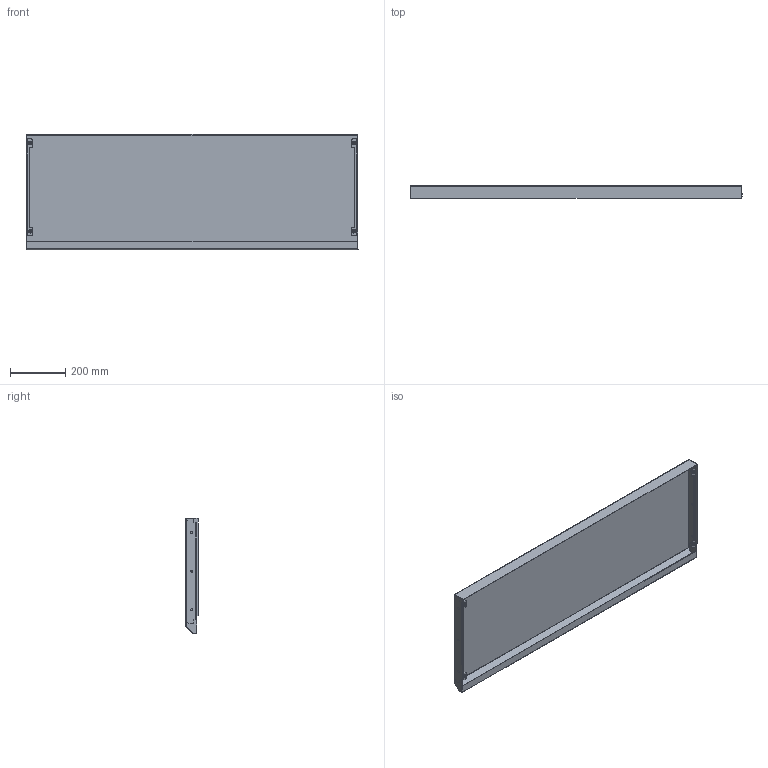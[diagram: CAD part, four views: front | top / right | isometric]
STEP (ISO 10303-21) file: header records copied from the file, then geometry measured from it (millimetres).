
FILE_DESCRIPTION (( 'STEP AP214' ), '1' );
FILE_NAME ('RKC 120.40 ﾊ鰀靍裲 鈞隆.STEP', '2023-07-29T07:53:27', ( '' ), ( '' ), 'SwSTEP 2.0', 'SolidWorks 2019', '' );
FILE_SCHEMA (( 'AUTOMOTIVE_DESIGN' ));
Length unit declared in the file: millimetre
Products named in the file (4): RKC Y.Z 01.001 扻踑謥獥RKC 120.40; Ãàéêà-çàêë¸ïêà Ì6; RKC Z 01.002 扰鍙欙樥燲RKC 40 ; RKC 120.40 ﾊ鰀靍裲 鈞隆
Assembly tree (7 placements, depth 2):
  RKC 120.40 ﾊ鰀靍裲 鈞隆
    RKC Y.Z 01.001 扻踑謥獥RKC 120.40
    RKC Z 01.002 扰鍙欙樥燲RKC 40   x2
    Ãàéêà-çàêë¸ïêà Ì6  x4
Bounding box: 1205 x 45 x 418 mm (x, y, z)
Volume: 961153.1 mm3; surface area: 1381359.8 mm2
Topology: 7 solids, 7 shells, 418 faces, 1040 edges, 652 vertices
Faces by surface type: cylinder 214, plane 134, torus 40, bspline 30
Entity records: 8193 total; most frequent: CARTESIAN_POINT 2971, ORIENTED_EDGE 1100, DIRECTION 1014, EDGE_CURVE 550, AXIS2_PLACEMENT_3D 370, VERTEX_POINT 343, LINE 274, VECTOR 274
